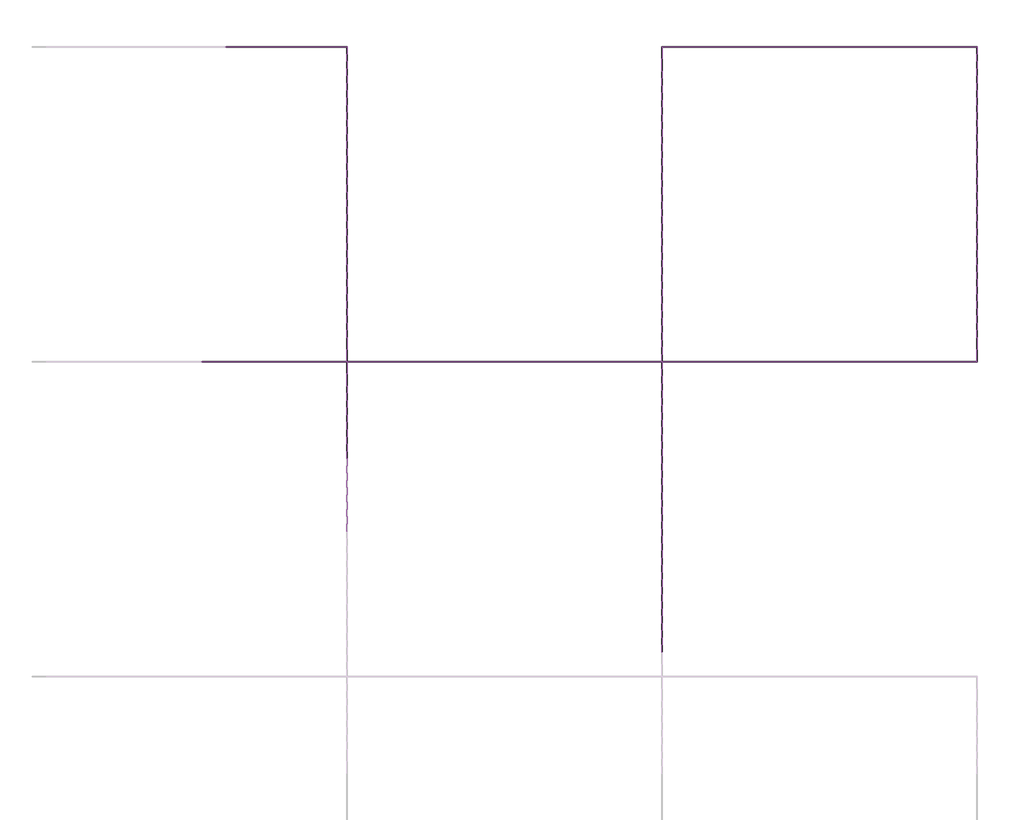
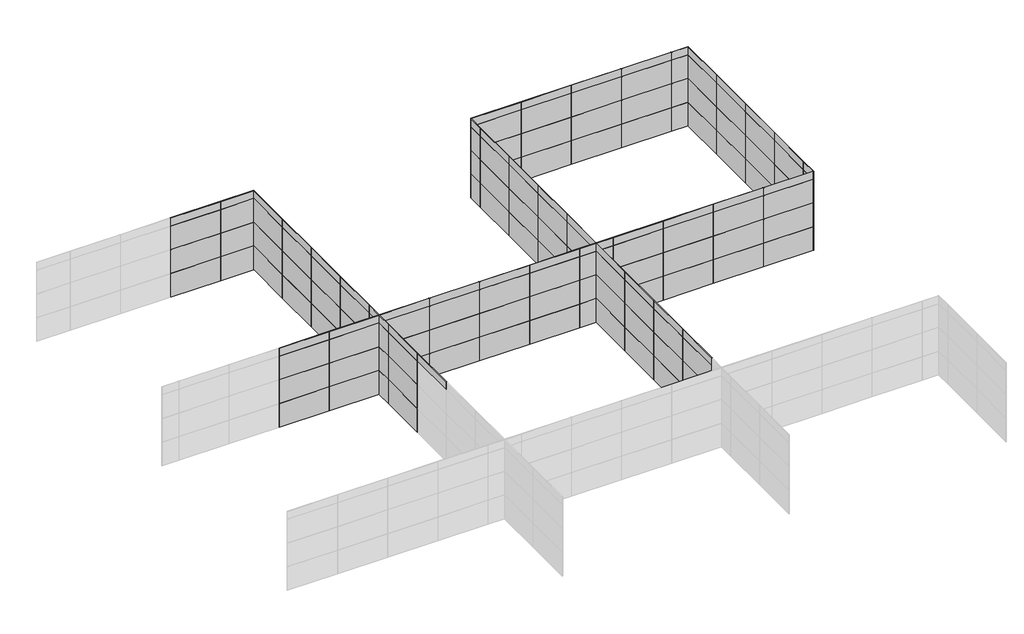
# One storey, part 4 of 4: 161 plates.
"""IFC4 building model written with IfcOpenShell, lengths in millimetres."""

from ifc_helpers import new_model, si_unit, origin, place, context, project, spatial, transform, mapped, element, save
from components import plate_b491c4e8, plate_da1865bf, plate_ce02e459, plate_7b5d22a9, plate_a38b8537, plate_752961ee

model = new_model("IFC4")

# Units and contexts
model_context = context("Model", 3, world=origin())
ifc_project = project(units=[si_unit("LENGTHUNIT", "METRE", prefix="MILLI")], contexts=[model_context])

# Site, building, storey
site = spatial("IfcSite", under=ifc_project)
building = spatial("IfcBuilding", under=site)
storey = spatial("IfcBuildingStorey", under=building, Name="标高 4", Elevation=15000.0)

# Plates
placement = place(None, origin())
plate_shape = plate_b491c4e8(model_context)
element("IfcPlate", 1, ObjectType="系统嵌板 : 玻璃", at=placement, inside=storey, context=model_context, shape_type="MappedRepresentation", body=[
    mapped(plate_shape, transform((30694.7947586, 23251.3686437, 15000.0), x_axis=(0.0, -1.0, 0.0), y_axis=(1.0, 0.0, 0.0), z_axis=(0.0, 0.0, 1.0))),
])
element("IfcPlate", 2, ObjectType="系统嵌板 : 玻璃", at=placement, inside=storey, context=model_context, shape_type="MappedRepresentation", body=[
    mapped(plate_shape, transform((30694.7947586, 20251.3686437, 15000.0), x_axis=(0.0, -1.0, 0.0), y_axis=(1.0, 0.0, 0.0), z_axis=(0.0, 0.0, 1.0))),
])
element("IfcPlate", 3, ObjectType="系统嵌板 : 玻璃", at=placement, inside=storey, context=model_context, shape_type="MappedRepresentation", body=[
    mapped(plate_shape, transform((30694.7947586, 17251.3686437, 15000.0), x_axis=(0.0, -1.0, 0.0), y_axis=(1.0, 0.0, 0.0), z_axis=(0.0, 0.0, 1.0))),
])
element("IfcPlate", 4, ObjectType="系统嵌板 : 玻璃", at=placement, inside=storey, context=model_context, shape_type="MappedRepresentation", body=[
    mapped(plate_shape, transform((30694.7947586, 14251.3686437, 15000.0), x_axis=(0.0, -1.0, 0.0), y_axis=(1.0, 0.0, 0.0), z_axis=(0.0, 0.0, 1.0))),
])
element("IfcPlate", 5, ObjectType="系统嵌板 : 玻璃", at=placement, inside=storey, context=model_context, shape_type="MappedRepresentation", body=[
    mapped(plate_shape, transform((30694.7947586, 23251.3686437, 16500.0), x_axis=(0.0, -1.0, 0.0), y_axis=(1.0, 0.0, 0.0), z_axis=(0.0, 0.0, 1.0))),
])
element("IfcPlate", 6, ObjectType="系统嵌板 : 玻璃", at=placement, inside=storey, context=model_context, shape_type="MappedRepresentation", body=[
    mapped(plate_shape, transform((30694.7947586, 20251.3686437, 16500.0), x_axis=(0.0, -1.0, 0.0), y_axis=(1.0, 0.0, 0.0), z_axis=(0.0, 0.0, 1.0))),
])
element("IfcPlate", 7, ObjectType="系统嵌板 : 玻璃", at=placement, inside=storey, context=model_context, shape_type="MappedRepresentation", body=[
    mapped(plate_shape, transform((30694.7947586, 17251.3686437, 16500.0), x_axis=(0.0, -1.0, 0.0), y_axis=(1.0, 0.0, 0.0), z_axis=(0.0, 0.0, 1.0))),
])
element("IfcPlate", 8, ObjectType="系统嵌板 : 玻璃", at=placement, inside=storey, context=model_context, shape_type="MappedRepresentation", body=[
    mapped(plate_shape, transform((30694.7947586, 14251.3686437, 16500.0), x_axis=(0.0, -1.0, 0.0), y_axis=(1.0, 0.0, 0.0), z_axis=(0.0, 0.0, 1.0))),
])
element("IfcPlate", 9, ObjectType="系统嵌板 : 玻璃", at=placement, inside=storey, context=model_context, shape_type="MappedRepresentation", body=[
    mapped(plate_shape, transform((30694.7947586, 23251.3686437, 18000.0), x_axis=(0.0, -1.0, 0.0), y_axis=(1.0, 0.0, 0.0), z_axis=(0.0, 0.0, 1.0))),
])
element("IfcPlate", 10, ObjectType="系统嵌板 : 玻璃", at=placement, inside=storey, context=model_context, shape_type="MappedRepresentation", body=[
    mapped(plate_shape, transform((30694.7947586, 20251.3686437, 18000.0), x_axis=(0.0, -1.0, 0.0), y_axis=(1.0, 0.0, 0.0), z_axis=(0.0, 0.0, 1.0))),
])
element("IfcPlate", 11, ObjectType="系统嵌板 : 玻璃", at=placement, inside=storey, context=model_context, shape_type="MappedRepresentation", body=[
    mapped(plate_shape, transform((30694.7947586, 17251.3686437, 18000.0), x_axis=(0.0, -1.0, 0.0), y_axis=(1.0, 0.0, 0.0), z_axis=(0.0, 0.0, 1.0))),
])
element("IfcPlate", 12, ObjectType="系统嵌板 : 玻璃", at=placement, inside=storey, context=model_context, shape_type="MappedRepresentation", body=[
    mapped(plate_shape, transform((30694.7947586, 14251.3686437, 18000.0), x_axis=(0.0, -1.0, 0.0), y_axis=(1.0, 0.0, 0.0), z_axis=(0.0, 0.0, 1.0))),
])
element("IfcPlate", 13, ObjectType="系统嵌板 : 玻璃", at=placement, inside=storey, context=model_context, shape_type="MappedRepresentation", body=[
    mapped(plate_shape, transform((1194.7947586, 24751.3686437, 15000.0), x_axis=(1.0, 0.0, 0.0), y_axis=(0.0, 1.0, 0.0), z_axis=(0.0, 0.0, 1.0))),
])
element("IfcPlate", 14, ObjectType="系统嵌板 : 玻璃", at=placement, inside=storey, context=model_context, shape_type="MappedRepresentation", body=[
    mapped(plate_shape, transform((19194.7947586, 24751.3686437, 15000.0), x_axis=(1.0, 0.0, 0.0), y_axis=(0.0, 1.0, 0.0), z_axis=(0.0, 0.0, 1.0))),
])
element("IfcPlate", 15, ObjectType="系统嵌板 : 玻璃", at=placement, inside=storey, context=model_context, shape_type="MappedRepresentation", body=[
    mapped(plate_shape, transform((22194.7947586, 24751.3686437, 15000.0), x_axis=(1.0, 0.0, 0.0), y_axis=(0.0, 1.0, 0.0), z_axis=(0.0, 0.0, 1.0))),
])
element("IfcPlate", 16, ObjectType="系统嵌板 : 玻璃", at=placement, inside=storey, context=model_context, shape_type="MappedRepresentation", body=[
    mapped(plate_shape, transform((25194.7947586, 24751.3686437, 15000.0), x_axis=(1.0, 0.0, 0.0), y_axis=(0.0, 1.0, 0.0), z_axis=(0.0, 0.0, 1.0))),
])
element("IfcPlate", 17, ObjectType="系统嵌板 : 玻璃", at=placement, inside=storey, context=model_context, shape_type="MappedRepresentation", body=[
    mapped(plate_shape, transform((28194.7947586, 24751.3686437, 15000.0), x_axis=(1.0, 0.0, 0.0), y_axis=(0.0, 1.0, 0.0), z_axis=(0.0, 0.0, 1.0))),
])
element("IfcPlate", 18, ObjectType="系统嵌板 : 玻璃", at=placement, inside=storey, context=model_context, shape_type="MappedRepresentation", body=[
    mapped(plate_shape, transform((1194.7947586, 24751.3686437, 16500.0), x_axis=(1.0, 0.0, 0.0), y_axis=(0.0, 1.0, 0.0), z_axis=(0.0, 0.0, 1.0))),
])
element("IfcPlate", 19, ObjectType="系统嵌板 : 玻璃", at=placement, inside=storey, context=model_context, shape_type="MappedRepresentation", body=[
    mapped(plate_shape, transform((19194.7947586, 24751.3686437, 16500.0), x_axis=(1.0, 0.0, 0.0), y_axis=(0.0, 1.0, 0.0), z_axis=(0.0, 0.0, 1.0))),
])
element("IfcPlate", 20, ObjectType="系统嵌板 : 玻璃", at=placement, inside=storey, context=model_context, shape_type="MappedRepresentation", body=[
    mapped(plate_shape, transform((22194.7947586, 24751.3686437, 16500.0), x_axis=(1.0, 0.0, 0.0), y_axis=(0.0, 1.0, 0.0), z_axis=(0.0, 0.0, 1.0))),
])
element("IfcPlate", 21, ObjectType="系统嵌板 : 玻璃", at=placement, inside=storey, context=model_context, shape_type="MappedRepresentation", body=[
    mapped(plate_shape, transform((25194.7947586, 24751.3686437, 16500.0), x_axis=(1.0, 0.0, 0.0), y_axis=(0.0, 1.0, 0.0), z_axis=(0.0, 0.0, 1.0))),
])
element("IfcPlate", 22, ObjectType="系统嵌板 : 玻璃", at=placement, inside=storey, context=model_context, shape_type="MappedRepresentation", body=[
    mapped(plate_shape, transform((28194.7947586, 24751.3686437, 16500.0), x_axis=(1.0, 0.0, 0.0), y_axis=(0.0, 1.0, 0.0), z_axis=(0.0, 0.0, 1.0))),
])
element("IfcPlate", 23, ObjectType="系统嵌板 : 玻璃", at=placement, inside=storey, context=model_context, shape_type="MappedRepresentation", body=[
    mapped(plate_shape, transform((1194.7947586, 24751.3686437, 18000.0), x_axis=(1.0, 0.0, 0.0), y_axis=(0.0, 1.0, 0.0), z_axis=(0.0, 0.0, 1.0))),
])
element("IfcPlate", 24, ObjectType="系统嵌板 : 玻璃", at=placement, inside=storey, context=model_context, shape_type="MappedRepresentation", body=[
    mapped(plate_shape, transform((19194.7947586, 24751.3686437, 18000.0), x_axis=(1.0, 0.0, 0.0), y_axis=(0.0, 1.0, 0.0), z_axis=(0.0, 0.0, 1.0))),
])
element("IfcPlate", 25, ObjectType="系统嵌板 : 玻璃", at=placement, inside=storey, context=model_context, shape_type="MappedRepresentation", body=[
    mapped(plate_shape, transform((22194.7947586, 24751.3686437, 18000.0), x_axis=(1.0, 0.0, 0.0), y_axis=(0.0, 1.0, 0.0), z_axis=(0.0, 0.0, 1.0))),
])
element("IfcPlate", 26, ObjectType="系统嵌板 : 玻璃", at=placement, inside=storey, context=model_context, shape_type="MappedRepresentation", body=[
    mapped(plate_shape, transform((25194.7947586, 24751.3686437, 18000.0), x_axis=(1.0, 0.0, 0.0), y_axis=(0.0, 1.0, 0.0), z_axis=(0.0, 0.0, 1.0))),
])
element("IfcPlate", 27, ObjectType="系统嵌板 : 玻璃", at=placement, inside=storey, context=model_context, shape_type="MappedRepresentation", body=[
    mapped(plate_shape, transform((28194.7947586, 24751.3686437, 18000.0), x_axis=(1.0, 0.0, 0.0), y_axis=(0.0, 1.0, 0.0), z_axis=(0.0, 0.0, 1.0))),
])
element("IfcPlate", 28, ObjectType="系统嵌板 : 玻璃", at=placement, inside=storey, context=model_context, shape_type="MappedRepresentation", body=[
    mapped(plate_shape, transform((4694.7947586, 9251.3686437, 15000.0), x_axis=(0.0, 1.0, 0.0), y_axis=(-1.0, 0.0, 0.0), z_axis=(0.0, 0.0, 1.0))),
])
element("IfcPlate", 29, ObjectType="系统嵌板 : 玻璃", at=placement, inside=storey, context=model_context, shape_type="MappedRepresentation", body=[
    mapped(plate_shape, transform((4694.7947586, 9251.3686437, 16500.0), x_axis=(0.0, 1.0, 0.0), y_axis=(-1.0, 0.0, 0.0), z_axis=(0.0, 0.0, 1.0))),
])
element("IfcPlate", 30, ObjectType="系统嵌板 : 玻璃", at=placement, inside=storey, context=model_context, shape_type="MappedRepresentation", body=[
    mapped(plate_shape, transform((4694.7947586, 9251.3686437, 18000.0), x_axis=(0.0, 1.0, 0.0), y_axis=(-1.0, 0.0, 0.0), z_axis=(0.0, 0.0, 1.0))),
])
element("IfcPlate", 31, ObjectType="系统嵌板 : 玻璃", at=placement, inside=storey, context=model_context, shape_type="MappedRepresentation", body=[
    mapped(plate_shape, transform((3194.7947586, 11751.3686437, 15000.0), x_axis=(-1.0, 0.0, 0.0), y_axis=(0.0, -1.0, 0.0), z_axis=(0.0, 0.0, 1.0))),
])
element("IfcPlate", 32, ObjectType="系统嵌板 : 玻璃", at=placement, inside=storey, context=model_context, shape_type="MappedRepresentation", body=[
    mapped(plate_shape, transform((194.7947586, 11751.3686437, 15000.0), x_axis=(-1.0, 0.0, 0.0), y_axis=(0.0, -1.0, 0.0), z_axis=(0.0, 0.0, 1.0))),
])
element("IfcPlate", 33, ObjectType="系统嵌板 : 玻璃", at=placement, inside=storey, context=model_context, shape_type="MappedRepresentation", body=[
    mapped(plate_shape, transform((3194.7947586, 11751.3686437, 16500.0), x_axis=(-1.0, 0.0, 0.0), y_axis=(0.0, -1.0, 0.0), z_axis=(0.0, 0.0, 1.0))),
])
element("IfcPlate", 34, ObjectType="系统嵌板 : 玻璃", at=placement, inside=storey, context=model_context, shape_type="MappedRepresentation", body=[
    mapped(plate_shape, transform((194.7947586, 11751.3686437, 16500.0), x_axis=(-1.0, 0.0, 0.0), y_axis=(0.0, -1.0, 0.0), z_axis=(0.0, 0.0, 1.0))),
])
element("IfcPlate", 35, ObjectType="系统嵌板 : 玻璃", at=placement, inside=storey, context=model_context, shape_type="MappedRepresentation", body=[
    mapped(plate_shape, transform((3194.7947586, 11751.3686437, 18000.0), x_axis=(-1.0, 0.0, 0.0), y_axis=(0.0, -1.0, 0.0), z_axis=(0.0, 0.0, 1.0))),
])
element("IfcPlate", 36, ObjectType="系统嵌板 : 玻璃", at=placement, inside=storey, context=model_context, shape_type="MappedRepresentation", body=[
    mapped(plate_shape, transform((194.7947586, 11751.3686437, 18000.0), x_axis=(-1.0, 0.0, 0.0), y_axis=(0.0, -1.0, 0.0), z_axis=(0.0, 0.0, 1.0))),
])
element("IfcPlate", 37, ObjectType="系统嵌板 : 玻璃", at=placement, inside=storey, context=model_context, shape_type="MappedRepresentation", body=[
    mapped(plate_shape, transform((17694.7947586, 13251.3686437, 15000.0), x_axis=(0.0, 1.0, 0.0), y_axis=(-1.0, 0.0, 0.0), z_axis=(0.0, 0.0, 1.0))),
])
element("IfcPlate", 38, ObjectType="系统嵌板 : 玻璃", at=placement, inside=storey, context=model_context, shape_type="MappedRepresentation", body=[
    mapped(plate_shape, transform((17694.7947586, 16251.3686437, 15000.0), x_axis=(0.0, 1.0, 0.0), y_axis=(-1.0, 0.0, 0.0), z_axis=(0.0, 0.0, 1.0))),
])
element("IfcPlate", 39, ObjectType="系统嵌板 : 玻璃", at=placement, inside=storey, context=model_context, shape_type="MappedRepresentation", body=[
    mapped(plate_shape, transform((17694.7947586, 19251.3686437, 15000.0), x_axis=(0.0, 1.0, 0.0), y_axis=(-1.0, 0.0, 0.0), z_axis=(0.0, 0.0, 1.0))),
])
element("IfcPlate", 40, ObjectType="系统嵌板 : 玻璃", at=placement, inside=storey, context=model_context, shape_type="MappedRepresentation", body=[
    mapped(plate_shape, transform((17694.7947586, 22251.3686437, 15000.0), x_axis=(0.0, 1.0, 0.0), y_axis=(-1.0, 0.0, 0.0), z_axis=(0.0, 0.0, 1.0))),
])
element("IfcPlate", 41, ObjectType="系统嵌板 : 玻璃", at=placement, inside=storey, context=model_context, shape_type="MappedRepresentation", body=[
    mapped(plate_shape, transform((17694.7947586, 13251.3686437, 16500.0), x_axis=(0.0, 1.0, 0.0), y_axis=(-1.0, 0.0, 0.0), z_axis=(0.0, 0.0, 1.0))),
])
element("IfcPlate", 42, ObjectType="系统嵌板 : 玻璃", at=placement, inside=storey, context=model_context, shape_type="MappedRepresentation", body=[
    mapped(plate_shape, transform((17694.7947586, 16251.3686437, 16500.0), x_axis=(0.0, 1.0, 0.0), y_axis=(-1.0, 0.0, 0.0), z_axis=(0.0, 0.0, 1.0))),
])
element("IfcPlate", 43, ObjectType="系统嵌板 : 玻璃", at=placement, inside=storey, context=model_context, shape_type="MappedRepresentation", body=[
    mapped(plate_shape, transform((17694.7947586, 19251.3686437, 16500.0), x_axis=(0.0, 1.0, 0.0), y_axis=(-1.0, 0.0, 0.0), z_axis=(0.0, 0.0, 1.0))),
])
element("IfcPlate", 44, ObjectType="系统嵌板 : 玻璃", at=placement, inside=storey, context=model_context, shape_type="MappedRepresentation", body=[
    mapped(plate_shape, transform((17694.7947586, 22251.3686437, 16500.0), x_axis=(0.0, 1.0, 0.0), y_axis=(-1.0, 0.0, 0.0), z_axis=(0.0, 0.0, 1.0))),
])
element("IfcPlate", 45, ObjectType="系统嵌板 : 玻璃", at=placement, inside=storey, context=model_context, shape_type="MappedRepresentation", body=[
    mapped(plate_shape, transform((17694.7947586, 13251.3686437, 18000.0), x_axis=(0.0, 1.0, 0.0), y_axis=(-1.0, 0.0, 0.0), z_axis=(0.0, 0.0, 1.0))),
])
element("IfcPlate", 46, ObjectType="系统嵌板 : 玻璃", at=placement, inside=storey, context=model_context, shape_type="MappedRepresentation", body=[
    mapped(plate_shape, transform((17694.7947586, 16251.3686437, 18000.0), x_axis=(0.0, 1.0, 0.0), y_axis=(-1.0, 0.0, 0.0), z_axis=(0.0, 0.0, 1.0))),
])
element("IfcPlate", 47, ObjectType="系统嵌板 : 玻璃", at=placement, inside=storey, context=model_context, shape_type="MappedRepresentation", body=[
    mapped(plate_shape, transform((17694.7947586, 19251.3686437, 18000.0), x_axis=(0.0, 1.0, 0.0), y_axis=(-1.0, 0.0, 0.0), z_axis=(0.0, 0.0, 1.0))),
])
element("IfcPlate", 48, ObjectType="系统嵌板 : 玻璃", at=placement, inside=storey, context=model_context, shape_type="MappedRepresentation", body=[
    mapped(plate_shape, transform((17694.7947586, 22251.3686437, 18000.0), x_axis=(0.0, 1.0, 0.0), y_axis=(-1.0, 0.0, 0.0), z_axis=(0.0, 0.0, 1.0))),
])
element("IfcPlate", 49, ObjectType="系统嵌板 : 玻璃", at=placement, inside=storey, context=model_context, shape_type="MappedRepresentation", body=[
    mapped(plate_shape, transform((6194.7947586, 11751.3686437, 15000.0), x_axis=(1.0, 0.0, 0.0), y_axis=(0.0, 1.0, 0.0), z_axis=(0.0, 0.0, 1.0))),
])
element("IfcPlate", 50, ObjectType="系统嵌板 : 玻璃", at=placement, inside=storey, context=model_context, shape_type="MappedRepresentation", body=[
    mapped(plate_shape, transform((9194.7947586, 11751.3686437, 15000.0), x_axis=(1.0, 0.0, 0.0), y_axis=(0.0, 1.0, 0.0), z_axis=(0.0, 0.0, 1.0))),
])
element("IfcPlate", 51, ObjectType="系统嵌板 : 玻璃", at=placement, inside=storey, context=model_context, shape_type="MappedRepresentation", body=[
    mapped(plate_shape, transform((12194.7947586, 11751.3686437, 15000.0), x_axis=(1.0, 0.0, 0.0), y_axis=(0.0, 1.0, 0.0), z_axis=(0.0, 0.0, 1.0))),
])
element("IfcPlate", 52, ObjectType="系统嵌板 : 玻璃", at=placement, inside=storey, context=model_context, shape_type="MappedRepresentation", body=[
    mapped(plate_shape, transform((15194.7947586, 11751.3686437, 15000.0), x_axis=(1.0, 0.0, 0.0), y_axis=(0.0, 1.0, 0.0), z_axis=(0.0, 0.0, 1.0))),
])
element("IfcPlate", 53, ObjectType="系统嵌板 : 玻璃", at=placement, inside=storey, context=model_context, shape_type="MappedRepresentation", body=[
    mapped(plate_shape, transform((6194.7947586, 11751.3686437, 16500.0), x_axis=(1.0, 0.0, 0.0), y_axis=(0.0, 1.0, 0.0), z_axis=(0.0, 0.0, 1.0))),
])
element("IfcPlate", 54, ObjectType="系统嵌板 : 玻璃", at=placement, inside=storey, context=model_context, shape_type="MappedRepresentation", body=[
    mapped(plate_shape, transform((9194.7947586, 11751.3686437, 16500.0), x_axis=(1.0, 0.0, 0.0), y_axis=(0.0, 1.0, 0.0), z_axis=(0.0, 0.0, 1.0))),
])
element("IfcPlate", 55, ObjectType="系统嵌板 : 玻璃", at=placement, inside=storey, context=model_context, shape_type="MappedRepresentation", body=[
    mapped(plate_shape, transform((12194.7947586, 11751.3686437, 16500.0), x_axis=(1.0, 0.0, 0.0), y_axis=(0.0, 1.0, 0.0), z_axis=(0.0, 0.0, 1.0))),
])
element("IfcPlate", 56, ObjectType="系统嵌板 : 玻璃", at=placement, inside=storey, context=model_context, shape_type="MappedRepresentation", body=[
    mapped(plate_shape, transform((15194.7947586, 11751.3686437, 16500.0), x_axis=(1.0, 0.0, 0.0), y_axis=(0.0, 1.0, 0.0), z_axis=(0.0, 0.0, 1.0))),
])
element("IfcPlate", 57, ObjectType="系统嵌板 : 玻璃", at=placement, inside=storey, context=model_context, shape_type="MappedRepresentation", body=[
    mapped(plate_shape, transform((6194.7947586, 11751.3686437, 18000.0), x_axis=(1.0, 0.0, 0.0), y_axis=(0.0, 1.0, 0.0), z_axis=(0.0, 0.0, 1.0))),
])
element("IfcPlate", 58, ObjectType="系统嵌板 : 玻璃", at=placement, inside=storey, context=model_context, shape_type="MappedRepresentation", body=[
    mapped(plate_shape, transform((9194.7947586, 11751.3686437, 18000.0), x_axis=(1.0, 0.0, 0.0), y_axis=(0.0, 1.0, 0.0), z_axis=(0.0, 0.0, 1.0))),
])
element("IfcPlate", 59, ObjectType="系统嵌板 : 玻璃", at=placement, inside=storey, context=model_context, shape_type="MappedRepresentation", body=[
    mapped(plate_shape, transform((12194.7947586, 11751.3686437, 18000.0), x_axis=(1.0, 0.0, 0.0), y_axis=(0.0, 1.0, 0.0), z_axis=(0.0, 0.0, 1.0))),
])
element("IfcPlate", 60, ObjectType="系统嵌板 : 玻璃", at=placement, inside=storey, context=model_context, shape_type="MappedRepresentation", body=[
    mapped(plate_shape, transform((15194.7947586, 11751.3686437, 18000.0), x_axis=(1.0, 0.0, 0.0), y_axis=(0.0, 1.0, 0.0), z_axis=(0.0, 0.0, 1.0))),
])
element("IfcPlate", 61, ObjectType="系统嵌板 : 玻璃", at=placement, inside=storey, context=model_context, shape_type="MappedRepresentation", body=[
    mapped(plate_shape, transform((4694.7947586, 23251.3686437, 15000.0), x_axis=(0.0, -1.0, 0.0), y_axis=(1.0, 0.0, 0.0), z_axis=(0.0, 0.0, 1.0))),
])
element("IfcPlate", 62, ObjectType="系统嵌板 : 玻璃", at=placement, inside=storey, context=model_context, shape_type="MappedRepresentation", body=[
    mapped(plate_shape, transform((4694.7947586, 20251.3686437, 15000.0), x_axis=(0.0, -1.0, 0.0), y_axis=(1.0, 0.0, 0.0), z_axis=(0.0, 0.0, 1.0))),
])
element("IfcPlate", 63, ObjectType="系统嵌板 : 玻璃", at=placement, inside=storey, context=model_context, shape_type="MappedRepresentation", body=[
    mapped(plate_shape, transform((4694.7947586, 17251.3686437, 15000.0), x_axis=(0.0, -1.0, 0.0), y_axis=(1.0, 0.0, 0.0), z_axis=(0.0, 0.0, 1.0))),
])
element("IfcPlate", 64, ObjectType="系统嵌板 : 玻璃", at=placement, inside=storey, context=model_context, shape_type="MappedRepresentation", body=[
    mapped(plate_shape, transform((4694.7947586, 14251.3686437, 15000.0), x_axis=(0.0, -1.0, 0.0), y_axis=(1.0, 0.0, 0.0), z_axis=(0.0, 0.0, 1.0))),
])
element("IfcPlate", 65, ObjectType="系统嵌板 : 玻璃", at=placement, inside=storey, context=model_context, shape_type="MappedRepresentation", body=[
    mapped(plate_shape, transform((4694.7947586, 23251.3686437, 16500.0), x_axis=(0.0, -1.0, 0.0), y_axis=(1.0, 0.0, 0.0), z_axis=(0.0, 0.0, 1.0))),
])
element("IfcPlate", 66, ObjectType="系统嵌板 : 玻璃", at=placement, inside=storey, context=model_context, shape_type="MappedRepresentation", body=[
    mapped(plate_shape, transform((4694.7947586, 20251.3686437, 16500.0), x_axis=(0.0, -1.0, 0.0), y_axis=(1.0, 0.0, 0.0), z_axis=(0.0, 0.0, 1.0))),
])
element("IfcPlate", 67, ObjectType="系统嵌板 : 玻璃", at=placement, inside=storey, context=model_context, shape_type="MappedRepresentation", body=[
    mapped(plate_shape, transform((4694.7947586, 17251.3686437, 16500.0), x_axis=(0.0, -1.0, 0.0), y_axis=(1.0, 0.0, 0.0), z_axis=(0.0, 0.0, 1.0))),
])
element("IfcPlate", 68, ObjectType="系统嵌板 : 玻璃", at=placement, inside=storey, context=model_context, shape_type="MappedRepresentation", body=[
    mapped(plate_shape, transform((4694.7947586, 14251.3686437, 16500.0), x_axis=(0.0, -1.0, 0.0), y_axis=(1.0, 0.0, 0.0), z_axis=(0.0, 0.0, 1.0))),
])
element("IfcPlate", 69, ObjectType="系统嵌板 : 玻璃", at=placement, inside=storey, context=model_context, shape_type="MappedRepresentation", body=[
    mapped(plate_shape, transform((4694.7947586, 23251.3686437, 18000.0), x_axis=(0.0, -1.0, 0.0), y_axis=(1.0, 0.0, 0.0), z_axis=(0.0, 0.0, 1.0))),
])
element("IfcPlate", 70, ObjectType="系统嵌板 : 玻璃", at=placement, inside=storey, context=model_context, shape_type="MappedRepresentation", body=[
    mapped(plate_shape, transform((4694.7947586, 20251.3686437, 18000.0), x_axis=(0.0, -1.0, 0.0), y_axis=(1.0, 0.0, 0.0), z_axis=(0.0, 0.0, 1.0))),
])
element("IfcPlate", 71, ObjectType="系统嵌板 : 玻璃", at=placement, inside=storey, context=model_context, shape_type="MappedRepresentation", body=[
    mapped(plate_shape, transform((4694.7947586, 17251.3686437, 18000.0), x_axis=(0.0, -1.0, 0.0), y_axis=(1.0, 0.0, 0.0), z_axis=(0.0, 0.0, 1.0))),
])
element("IfcPlate", 72, ObjectType="系统嵌板 : 玻璃", at=placement, inside=storey, context=model_context, shape_type="MappedRepresentation", body=[
    mapped(plate_shape, transform((4694.7947586, 14251.3686437, 18000.0), x_axis=(0.0, -1.0, 0.0), y_axis=(1.0, 0.0, 0.0), z_axis=(0.0, 0.0, 1.0))),
])
element("IfcPlate", 73, ObjectType="系统嵌板 : 玻璃", at=placement, inside=storey, context=model_context, shape_type="MappedRepresentation", body=[
    mapped(plate_shape, transform((29194.7947586, 11751.3686437, 15000.0), x_axis=(-1.0, 0.0, 0.0), y_axis=(0.0, -1.0, 0.0), z_axis=(0.0, 0.0, 1.0))),
])
element("IfcPlate", 74, ObjectType="系统嵌板 : 玻璃", at=placement, inside=storey, context=model_context, shape_type="MappedRepresentation", body=[
    mapped(plate_shape, transform((26194.7947586, 11751.3686437, 15000.0), x_axis=(-1.0, 0.0, 0.0), y_axis=(0.0, -1.0, 0.0), z_axis=(0.0, 0.0, 1.0))),
])
element("IfcPlate", 75, ObjectType="系统嵌板 : 玻璃", at=placement, inside=storey, context=model_context, shape_type="MappedRepresentation", body=[
    mapped(plate_shape, transform((23194.7947586, 11751.3686437, 15000.0), x_axis=(-1.0, 0.0, 0.0), y_axis=(0.0, -1.0, 0.0), z_axis=(0.0, 0.0, 1.0))),
])
element("IfcPlate", 76, ObjectType="系统嵌板 : 玻璃", at=placement, inside=storey, context=model_context, shape_type="MappedRepresentation", body=[
    mapped(plate_shape, transform((20194.7947586, 11751.3686437, 15000.0), x_axis=(-1.0, 0.0, 0.0), y_axis=(0.0, -1.0, 0.0), z_axis=(0.0, 0.0, 1.0))),
])
element("IfcPlate", 77, ObjectType="系统嵌板 : 玻璃", at=placement, inside=storey, context=model_context, shape_type="MappedRepresentation", body=[
    mapped(plate_shape, transform((29194.7947586, 11751.3686437, 16500.0), x_axis=(-1.0, 0.0, 0.0), y_axis=(0.0, -1.0, 0.0), z_axis=(0.0, 0.0, 1.0))),
])
element("IfcPlate", 78, ObjectType="系统嵌板 : 玻璃", at=placement, inside=storey, context=model_context, shape_type="MappedRepresentation", body=[
    mapped(plate_shape, transform((26194.7947586, 11751.3686437, 16500.0), x_axis=(-1.0, 0.0, 0.0), y_axis=(0.0, -1.0, 0.0), z_axis=(0.0, 0.0, 1.0))),
])
element("IfcPlate", 79, ObjectType="系统嵌板 : 玻璃", at=placement, inside=storey, context=model_context, shape_type="MappedRepresentation", body=[
    mapped(plate_shape, transform((23194.7947586, 11751.3686437, 16500.0), x_axis=(-1.0, 0.0, 0.0), y_axis=(0.0, -1.0, 0.0), z_axis=(0.0, 0.0, 1.0))),
])
element("IfcPlate", 80, ObjectType="系统嵌板 : 玻璃", at=placement, inside=storey, context=model_context, shape_type="MappedRepresentation", body=[
    mapped(plate_shape, transform((20194.7947586, 11751.3686437, 16500.0), x_axis=(-1.0, 0.0, 0.0), y_axis=(0.0, -1.0, 0.0), z_axis=(0.0, 0.0, 1.0))),
])
element("IfcPlate", 81, ObjectType="系统嵌板 : 玻璃", at=placement, inside=storey, context=model_context, shape_type="MappedRepresentation", body=[
    mapped(plate_shape, transform((29194.7947586, 11751.3686437, 18000.0), x_axis=(-1.0, 0.0, 0.0), y_axis=(0.0, -1.0, 0.0), z_axis=(0.0, 0.0, 1.0))),
])
element("IfcPlate", 82, ObjectType="系统嵌板 : 玻璃", at=placement, inside=storey, context=model_context, shape_type="MappedRepresentation", body=[
    mapped(plate_shape, transform((26194.7947586, 11751.3686437, 18000.0), x_axis=(-1.0, 0.0, 0.0), y_axis=(0.0, -1.0, 0.0), z_axis=(0.0, 0.0, 1.0))),
])
element("IfcPlate", 83, ObjectType="系统嵌板 : 玻璃", at=placement, inside=storey, context=model_context, shape_type="MappedRepresentation", body=[
    mapped(plate_shape, transform((23194.7947586, 11751.3686437, 18000.0), x_axis=(-1.0, 0.0, 0.0), y_axis=(0.0, -1.0, 0.0), z_axis=(0.0, 0.0, 1.0))),
])
element("IfcPlate", 84, ObjectType="系统嵌板 : 玻璃", at=placement, inside=storey, context=model_context, shape_type="MappedRepresentation", body=[
    mapped(plate_shape, transform((20194.7947586, 11751.3686437, 18000.0), x_axis=(-1.0, 0.0, 0.0), y_axis=(0.0, -1.0, 0.0), z_axis=(0.0, 0.0, 1.0))),
])
element("IfcPlate", 85, ObjectType="系统嵌板 : 玻璃", at=placement, inside=storey, context=model_context, shape_type="MappedRepresentation", body=[
    mapped(plate_shape, transform((17694.7947586, 10251.3686437, 15000.0), x_axis=(0.0, -1.0, 0.0), y_axis=(1.0, 0.0, 0.0), z_axis=(0.0, 0.0, 1.0))),
])
element("IfcPlate", 86, ObjectType="系统嵌板 : 玻璃", at=placement, inside=storey, context=model_context, shape_type="MappedRepresentation", body=[
    mapped(plate_shape, transform((17694.7947586, 7251.3686437, 15000.0), x_axis=(0.0, -1.0, 0.0), y_axis=(1.0, 0.0, 0.0), z_axis=(0.0, 0.0, 1.0))),
])
element("IfcPlate", 87, ObjectType="系统嵌板 : 玻璃", at=placement, inside=storey, context=model_context, shape_type="MappedRepresentation", body=[
    mapped(plate_shape, transform((17694.7947586, 4251.3686437, 15000.0), x_axis=(0.0, -1.0, 0.0), y_axis=(1.0, 0.0, 0.0), z_axis=(0.0, 0.0, 1.0))),
])
element("IfcPlate", 88, ObjectType="系统嵌板 : 玻璃", at=placement, inside=storey, context=model_context, shape_type="MappedRepresentation", body=[
    mapped(plate_shape, transform((17694.7947586, 1251.3686437, 15000.0), x_axis=(0.0, -1.0, 0.0), y_axis=(1.0, 0.0, 0.0), z_axis=(0.0, 0.0, 1.0))),
])
element("IfcPlate", 89, ObjectType="系统嵌板 : 玻璃", at=placement, inside=storey, context=model_context, shape_type="MappedRepresentation", body=[
    mapped(plate_shape, transform((17694.7947586, 10251.3686437, 16500.0), x_axis=(0.0, -1.0, 0.0), y_axis=(1.0, 0.0, 0.0), z_axis=(0.0, 0.0, 1.0))),
])
element("IfcPlate", 90, ObjectType="系统嵌板 : 玻璃", at=placement, inside=storey, context=model_context, shape_type="MappedRepresentation", body=[
    mapped(plate_shape, transform((17694.7947586, 7251.3686437, 16500.0), x_axis=(0.0, -1.0, 0.0), y_axis=(1.0, 0.0, 0.0), z_axis=(0.0, 0.0, 1.0))),
])
element("IfcPlate", 91, ObjectType="系统嵌板 : 玻璃", at=placement, inside=storey, context=model_context, shape_type="MappedRepresentation", body=[
    mapped(plate_shape, transform((17694.7947586, 4251.3686437, 16500.0), x_axis=(0.0, -1.0, 0.0), y_axis=(1.0, 0.0, 0.0), z_axis=(0.0, 0.0, 1.0))),
])
element("IfcPlate", 92, ObjectType="系统嵌板 : 玻璃", at=placement, inside=storey, context=model_context, shape_type="MappedRepresentation", body=[
    mapped(plate_shape, transform((17694.7947586, 1251.3686437, 16500.0), x_axis=(0.0, -1.0, 0.0), y_axis=(1.0, 0.0, 0.0), z_axis=(0.0, 0.0, 1.0))),
])
element("IfcPlate", 93, ObjectType="系统嵌板 : 玻璃", at=placement, inside=storey, context=model_context, shape_type="MappedRepresentation", body=[
    mapped(plate_shape, transform((17694.7947586, 10251.3686437, 18000.0), x_axis=(0.0, -1.0, 0.0), y_axis=(1.0, 0.0, 0.0), z_axis=(0.0, 0.0, 1.0))),
])
element("IfcPlate", 94, ObjectType="系统嵌板 : 玻璃", at=placement, inside=storey, context=model_context, shape_type="MappedRepresentation", body=[
    mapped(plate_shape, transform((17694.7947586, 7251.3686437, 18000.0), x_axis=(0.0, -1.0, 0.0), y_axis=(1.0, 0.0, 0.0), z_axis=(0.0, 0.0, 1.0))),
])
element("IfcPlate", 95, ObjectType="系统嵌板 : 玻璃", at=placement, inside=storey, context=model_context, shape_type="MappedRepresentation", body=[
    mapped(plate_shape, transform((17694.7947586, 4251.3686437, 18000.0), x_axis=(0.0, -1.0, 0.0), y_axis=(1.0, 0.0, 0.0), z_axis=(0.0, 0.0, 1.0))),
])
element("IfcPlate", 96, ObjectType="系统嵌板 : 玻璃", at=placement, inside=storey, context=model_context, shape_type="MappedRepresentation", body=[
    mapped(plate_shape, transform((17694.7947586, 1251.3686437, 18000.0), x_axis=(0.0, -1.0, 0.0), y_axis=(1.0, 0.0, 0.0), z_axis=(0.0, 0.0, 1.0))),
])
plate_2_shape = plate_da1865bf(model_context)
element("IfcPlate", 97, ObjectType="系统嵌板 : 玻璃", at=placement, inside=storey, context=model_context, shape_type="MappedRepresentation", body=[
    mapped(plate_2_shape, transform((30694.7947586, 12251.3686437, 15000.0), x_axis=(0.0, -1.0, 0.0), y_axis=(1.0, 0.0, 0.0), z_axis=(0.0, 0.0, 1.0))),
])
element("IfcPlate", 98, ObjectType="系统嵌板 : 玻璃", at=placement, inside=storey, context=model_context, shape_type="MappedRepresentation", body=[
    mapped(plate_2_shape, transform((30694.7947586, 12251.3686437, 16500.0), x_axis=(0.0, -1.0, 0.0), y_axis=(1.0, 0.0, 0.0), z_axis=(0.0, 0.0, 1.0))),
])
element("IfcPlate", 99, ObjectType="系统嵌板 : 玻璃", at=placement, inside=storey, context=model_context, shape_type="MappedRepresentation", body=[
    mapped(plate_2_shape, transform((30694.7947586, 12251.3686437, 18000.0), x_axis=(0.0, -1.0, 0.0), y_axis=(1.0, 0.0, 0.0), z_axis=(0.0, 0.0, 1.0))),
])
element("IfcPlate", 100, ObjectType="系统嵌板 : 玻璃", at=placement, inside=storey, context=model_context, shape_type="MappedRepresentation", body=[
    mapped(plate_2_shape, transform((30194.7947586, 24751.3686437, 15000.0), x_axis=(1.0, 0.0, 0.0), y_axis=(0.0, 1.0, 0.0), z_axis=(0.0, 0.0, 1.0))),
])
element("IfcPlate", 101, ObjectType="系统嵌板 : 玻璃", at=placement, inside=storey, context=model_context, shape_type="MappedRepresentation", body=[
    mapped(plate_2_shape, transform((30194.7947586, 24751.3686437, 16500.0), x_axis=(1.0, 0.0, 0.0), y_axis=(0.0, 1.0, 0.0), z_axis=(0.0, 0.0, 1.0))),
])
element("IfcPlate", 102, ObjectType="系统嵌板 : 玻璃", at=placement, inside=storey, context=model_context, shape_type="MappedRepresentation", body=[
    mapped(plate_2_shape, transform((30194.7947586, 24751.3686437, 18000.0), x_axis=(1.0, 0.0, 0.0), y_axis=(0.0, 1.0, 0.0), z_axis=(0.0, 0.0, 1.0))),
])
element("IfcPlate", 103, ObjectType="系统嵌板 : 玻璃", at=placement, inside=storey, context=model_context, shape_type="MappedRepresentation", body=[
    mapped(plate_2_shape, transform((4694.7947586, 11251.3686437, 15000.0), x_axis=(0.0, 1.0, 0.0), y_axis=(-1.0, 0.0, 0.0), z_axis=(0.0, 0.0, 1.0))),
])
element("IfcPlate", 104, ObjectType="系统嵌板 : 玻璃", at=placement, inside=storey, context=model_context, shape_type="MappedRepresentation", body=[
    mapped(plate_2_shape, transform((4694.7947586, 11251.3686437, 16500.0), x_axis=(0.0, 1.0, 0.0), y_axis=(-1.0, 0.0, 0.0), z_axis=(0.0, 0.0, 1.0))),
])
element("IfcPlate", 105, ObjectType="系统嵌板 : 玻璃", at=placement, inside=storey, context=model_context, shape_type="MappedRepresentation", body=[
    mapped(plate_2_shape, transform((4694.7947586, 11251.3686437, 18000.0), x_axis=(0.0, 1.0, 0.0), y_axis=(-1.0, 0.0, 0.0), z_axis=(0.0, 0.0, 1.0))),
])
element("IfcPlate", 106, ObjectType="系统嵌板 : 玻璃", at=placement, inside=storey, context=model_context, shape_type="MappedRepresentation", body=[
    mapped(plate_2_shape, transform((17694.7947586, 24251.3686437, 15000.0), x_axis=(0.0, 1.0, 0.0), y_axis=(-1.0, 0.0, 0.0), z_axis=(0.0, 0.0, 1.0))),
])
element("IfcPlate", 107, ObjectType="系统嵌板 : 玻璃", at=placement, inside=storey, context=model_context, shape_type="MappedRepresentation", body=[
    mapped(plate_2_shape, transform((17694.7947586, 24251.3686437, 16500.0), x_axis=(0.0, 1.0, 0.0), y_axis=(-1.0, 0.0, 0.0), z_axis=(0.0, 0.0, 1.0))),
])
element("IfcPlate", 108, ObjectType="系统嵌板 : 玻璃", at=placement, inside=storey, context=model_context, shape_type="MappedRepresentation", body=[
    mapped(plate_2_shape, transform((17694.7947586, 24251.3686437, 18000.0), x_axis=(0.0, 1.0, 0.0), y_axis=(-1.0, 0.0, 0.0), z_axis=(0.0, 0.0, 1.0))),
])
element("IfcPlate", 109, ObjectType="系统嵌板 : 玻璃", at=placement, inside=storey, context=model_context, shape_type="MappedRepresentation", body=[
    mapped(plate_2_shape, transform((17194.7947586, 11751.3686437, 15000.0), x_axis=(1.0, 0.0, 0.0), y_axis=(0.0, 1.0, 0.0), z_axis=(0.0, 0.0, 1.0))),
])
element("IfcPlate", 110, ObjectType="系统嵌板 : 玻璃", at=placement, inside=storey, context=model_context, shape_type="MappedRepresentation", body=[
    mapped(plate_2_shape, transform((17194.7947586, 11751.3686437, 16500.0), x_axis=(1.0, 0.0, 0.0), y_axis=(0.0, 1.0, 0.0), z_axis=(0.0, 0.0, 1.0))),
])
element("IfcPlate", 111, ObjectType="系统嵌板 : 玻璃", at=placement, inside=storey, context=model_context, shape_type="MappedRepresentation", body=[
    mapped(plate_2_shape, transform((17194.7947586, 11751.3686437, 18000.0), x_axis=(1.0, 0.0, 0.0), y_axis=(0.0, 1.0, 0.0), z_axis=(0.0, 0.0, 1.0))),
])
element("IfcPlate", 112, ObjectType="系统嵌板 : 玻璃", at=placement, inside=storey, context=model_context, shape_type="MappedRepresentation", body=[
    mapped(plate_2_shape, transform((4694.7947586, 12251.3686437, 15000.0), x_axis=(0.0, -1.0, 0.0), y_axis=(1.0, 0.0, 0.0), z_axis=(0.0, 0.0, 1.0))),
])
element("IfcPlate", 113, ObjectType="系统嵌板 : 玻璃", at=placement, inside=storey, context=model_context, shape_type="MappedRepresentation", body=[
    mapped(plate_2_shape, transform((4694.7947586, 12251.3686437, 16500.0), x_axis=(0.0, -1.0, 0.0), y_axis=(1.0, 0.0, 0.0), z_axis=(0.0, 0.0, 1.0))),
])
element("IfcPlate", 114, ObjectType="系统嵌板 : 玻璃", at=placement, inside=storey, context=model_context, shape_type="MappedRepresentation", body=[
    mapped(plate_2_shape, transform((4694.7947586, 12251.3686437, 18000.0), x_axis=(0.0, -1.0, 0.0), y_axis=(1.0, 0.0, 0.0), z_axis=(0.0, 0.0, 1.0))),
])
element("IfcPlate", 115, ObjectType="系统嵌板 : 玻璃", at=placement, inside=storey, context=model_context, shape_type="MappedRepresentation", body=[
    mapped(plate_2_shape, transform((18194.7947586, 11751.3686437, 15000.0), x_axis=(-1.0, 0.0, 0.0), y_axis=(0.0, -1.0, 0.0), z_axis=(0.0, 0.0, 1.0))),
])
element("IfcPlate", 116, ObjectType="系统嵌板 : 玻璃", at=placement, inside=storey, context=model_context, shape_type="MappedRepresentation", body=[
    mapped(plate_2_shape, transform((18194.7947586, 11751.3686437, 16500.0), x_axis=(-1.0, 0.0, 0.0), y_axis=(0.0, -1.0, 0.0), z_axis=(0.0, 0.0, 1.0))),
])
element("IfcPlate", 117, ObjectType="系统嵌板 : 玻璃", at=placement, inside=storey, context=model_context, shape_type="MappedRepresentation", body=[
    mapped(plate_2_shape, transform((18194.7947586, 11751.3686437, 18000.0), x_axis=(-1.0, 0.0, 0.0), y_axis=(0.0, -1.0, 0.0), z_axis=(0.0, 0.0, 1.0))),
])
plate_3_shape = plate_ce02e459(model_context)
element("IfcPlate", 118, ObjectType="系统嵌板 : 玻璃", at=placement, inside=storey, context=model_context, shape_type="MappedRepresentation", body=[
    mapped(plate_3_shape, transform((30694.7947586, 23251.3686437, 19500.0), x_axis=(0.0, -1.0, 0.0), y_axis=(1.0, 0.0, 0.0), z_axis=(0.0, 0.0, 1.0))),
])
element("IfcPlate", 119, ObjectType="系统嵌板 : 玻璃", at=placement, inside=storey, context=model_context, shape_type="MappedRepresentation", body=[
    mapped(plate_3_shape, transform((30694.7947586, 20251.3686437, 19500.0), x_axis=(0.0, -1.0, 0.0), y_axis=(1.0, 0.0, 0.0), z_axis=(0.0, 0.0, 1.0))),
])
element("IfcPlate", 120, ObjectType="系统嵌板 : 玻璃", at=placement, inside=storey, context=model_context, shape_type="MappedRepresentation", body=[
    mapped(plate_3_shape, transform((30694.7947586, 17251.3686437, 19500.0), x_axis=(0.0, -1.0, 0.0), y_axis=(1.0, 0.0, 0.0), z_axis=(0.0, 0.0, 1.0))),
])
element("IfcPlate", 121, ObjectType="系统嵌板 : 玻璃", at=placement, inside=storey, context=model_context, shape_type="MappedRepresentation", body=[
    mapped(plate_3_shape, transform((30694.7947586, 14251.3686437, 19500.0), x_axis=(0.0, -1.0, 0.0), y_axis=(1.0, 0.0, 0.0), z_axis=(0.0, 0.0, 1.0))),
])
element("IfcPlate", 122, ObjectType="系统嵌板 : 玻璃", at=placement, inside=storey, context=model_context, shape_type="MappedRepresentation", body=[
    mapped(plate_3_shape, transform((1194.7947586, 24751.3686437, 19500.0), x_axis=(1.0, 0.0, 0.0), y_axis=(0.0, 1.0, 0.0), z_axis=(0.0, 0.0, 1.0))),
])
element("IfcPlate", 123, ObjectType="系统嵌板 : 玻璃", at=placement, inside=storey, context=model_context, shape_type="MappedRepresentation", body=[
    mapped(plate_3_shape, transform((19194.7947586, 24751.3686437, 19500.0), x_axis=(1.0, 0.0, 0.0), y_axis=(0.0, 1.0, 0.0), z_axis=(0.0, 0.0, 1.0))),
])
element("IfcPlate", 124, ObjectType="系统嵌板 : 玻璃", at=placement, inside=storey, context=model_context, shape_type="MappedRepresentation", body=[
    mapped(plate_3_shape, transform((22194.7947586, 24751.3686437, 19500.0), x_axis=(1.0, 0.0, 0.0), y_axis=(0.0, 1.0, 0.0), z_axis=(0.0, 0.0, 1.0))),
])
element("IfcPlate", 125, ObjectType="系统嵌板 : 玻璃", at=placement, inside=storey, context=model_context, shape_type="MappedRepresentation", body=[
    mapped(plate_3_shape, transform((25194.7947586, 24751.3686437, 19500.0), x_axis=(1.0, 0.0, 0.0), y_axis=(0.0, 1.0, 0.0), z_axis=(0.0, 0.0, 1.0))),
])
element("IfcPlate", 126, ObjectType="系统嵌板 : 玻璃", at=placement, inside=storey, context=model_context, shape_type="MappedRepresentation", body=[
    mapped(plate_3_shape, transform((28194.7947586, 24751.3686437, 19500.0), x_axis=(1.0, 0.0, 0.0), y_axis=(0.0, 1.0, 0.0), z_axis=(0.0, 0.0, 1.0))),
])
element("IfcPlate", 127, ObjectType="系统嵌板 : 玻璃", at=placement, inside=storey, context=model_context, shape_type="MappedRepresentation", body=[
    mapped(plate_3_shape, transform((4694.7947586, 6251.3686437, 19500.0), x_axis=(0.0, 1.0, 0.0), y_axis=(-1.0, 0.0, 0.0), z_axis=(0.0, 0.0, 1.0))),
])
element("IfcPlate", 128, ObjectType="系统嵌板 : 玻璃", at=placement, inside=storey, context=model_context, shape_type="MappedRepresentation", body=[
    mapped(plate_3_shape, transform((4694.7947586, 9251.3686437, 19500.0), x_axis=(0.0, 1.0, 0.0), y_axis=(-1.0, 0.0, 0.0), z_axis=(0.0, 0.0, 1.0))),
])
element("IfcPlate", 129, ObjectType="系统嵌板 : 玻璃", at=placement, inside=storey, context=model_context, shape_type="MappedRepresentation", body=[
    mapped(plate_3_shape, transform((3194.7947586, 11751.3686437, 19500.0), x_axis=(-1.0, 0.0, 0.0), y_axis=(0.0, -1.0, 0.0), z_axis=(0.0, 0.0, 1.0))),
])
element("IfcPlate", 130, ObjectType="系统嵌板 : 玻璃", at=placement, inside=storey, context=model_context, shape_type="MappedRepresentation", body=[
    mapped(plate_3_shape, transform((194.7947586, 11751.3686437, 19500.0), x_axis=(-1.0, 0.0, 0.0), y_axis=(0.0, -1.0, 0.0), z_axis=(0.0, 0.0, 1.0))),
])
element("IfcPlate", 131, ObjectType="系统嵌板 : 玻璃", at=placement, inside=storey, context=model_context, shape_type="MappedRepresentation", body=[
    mapped(plate_3_shape, transform((17694.7947586, 13251.3686437, 19500.0), x_axis=(0.0, 1.0, 0.0), y_axis=(-1.0, 0.0, 0.0), z_axis=(0.0, 0.0, 1.0))),
])
element("IfcPlate", 132, ObjectType="系统嵌板 : 玻璃", at=placement, inside=storey, context=model_context, shape_type="MappedRepresentation", body=[
    mapped(plate_3_shape, transform((17694.7947586, 16251.3686437, 19500.0), x_axis=(0.0, 1.0, 0.0), y_axis=(-1.0, 0.0, 0.0), z_axis=(0.0, 0.0, 1.0))),
])
element("IfcPlate", 133, ObjectType="系统嵌板 : 玻璃", at=placement, inside=storey, context=model_context, shape_type="MappedRepresentation", body=[
    mapped(plate_3_shape, transform((17694.7947586, 19251.3686437, 19500.0), x_axis=(0.0, 1.0, 0.0), y_axis=(-1.0, 0.0, 0.0), z_axis=(0.0, 0.0, 1.0))),
])
element("IfcPlate", 134, ObjectType="系统嵌板 : 玻璃", at=placement, inside=storey, context=model_context, shape_type="MappedRepresentation", body=[
    mapped(plate_3_shape, transform((17694.7947586, 22251.3686437, 19500.0), x_axis=(0.0, 1.0, 0.0), y_axis=(-1.0, 0.0, 0.0), z_axis=(0.0, 0.0, 1.0))),
])
element("IfcPlate", 135, ObjectType="系统嵌板 : 玻璃", at=placement, inside=storey, context=model_context, shape_type="MappedRepresentation", body=[
    mapped(plate_3_shape, transform((6194.7947586, 11751.3686437, 19500.0), x_axis=(1.0, 0.0, 0.0), y_axis=(0.0, 1.0, 0.0), z_axis=(0.0, 0.0, 1.0))),
])
element("IfcPlate", 136, ObjectType="系统嵌板 : 玻璃", at=placement, inside=storey, context=model_context, shape_type="MappedRepresentation", body=[
    mapped(plate_3_shape, transform((9194.7947586, 11751.3686437, 19500.0), x_axis=(1.0, 0.0, 0.0), y_axis=(0.0, 1.0, 0.0), z_axis=(0.0, 0.0, 1.0))),
])
element("IfcPlate", 137, ObjectType="系统嵌板 : 玻璃", at=placement, inside=storey, context=model_context, shape_type="MappedRepresentation", body=[
    mapped(plate_3_shape, transform((12194.7947586, 11751.3686437, 19500.0), x_axis=(1.0, 0.0, 0.0), y_axis=(0.0, 1.0, 0.0), z_axis=(0.0, 0.0, 1.0))),
])
element("IfcPlate", 138, ObjectType="系统嵌板 : 玻璃", at=placement, inside=storey, context=model_context, shape_type="MappedRepresentation", body=[
    mapped(plate_3_shape, transform((15194.7947586, 11751.3686437, 19500.0), x_axis=(1.0, 0.0, 0.0), y_axis=(0.0, 1.0, 0.0), z_axis=(0.0, 0.0, 1.0))),
])
element("IfcPlate", 139, ObjectType="系统嵌板 : 玻璃", at=placement, inside=storey, context=model_context, shape_type="MappedRepresentation", body=[
    mapped(plate_3_shape, transform((4694.7947586, 23251.3686437, 19500.0), x_axis=(0.0, -1.0, 0.0), y_axis=(1.0, 0.0, 0.0), z_axis=(0.0, 0.0, 1.0))),
])
element("IfcPlate", 140, ObjectType="系统嵌板 : 玻璃", at=placement, inside=storey, context=model_context, shape_type="MappedRepresentation", body=[
    mapped(plate_3_shape, transform((4694.7947586, 20251.3686437, 19500.0), x_axis=(0.0, -1.0, 0.0), y_axis=(1.0, 0.0, 0.0), z_axis=(0.0, 0.0, 1.0))),
])
element("IfcPlate", 141, ObjectType="系统嵌板 : 玻璃", at=placement, inside=storey, context=model_context, shape_type="MappedRepresentation", body=[
    mapped(plate_3_shape, transform((4694.7947586, 17251.3686437, 19500.0), x_axis=(0.0, -1.0, 0.0), y_axis=(1.0, 0.0, 0.0), z_axis=(0.0, 0.0, 1.0))),
])
element("IfcPlate", 142, ObjectType="系统嵌板 : 玻璃", at=placement, inside=storey, context=model_context, shape_type="MappedRepresentation", body=[
    mapped(plate_3_shape, transform((4694.7947586, 14251.3686437, 19500.0), x_axis=(0.0, -1.0, 0.0), y_axis=(1.0, 0.0, 0.0), z_axis=(0.0, 0.0, 1.0))),
])
element("IfcPlate", 143, ObjectType="系统嵌板 : 玻璃", at=placement, inside=storey, context=model_context, shape_type="MappedRepresentation", body=[
    mapped(plate_3_shape, transform((29194.7947586, 11751.3686437, 19500.0), x_axis=(-1.0, 0.0, 0.0), y_axis=(0.0, -1.0, 0.0), z_axis=(0.0, 0.0, 1.0))),
])
element("IfcPlate", 144, ObjectType="系统嵌板 : 玻璃", at=placement, inside=storey, context=model_context, shape_type="MappedRepresentation", body=[
    mapped(plate_3_shape, transform((26194.7947586, 11751.3686437, 19500.0), x_axis=(-1.0, 0.0, 0.0), y_axis=(0.0, -1.0, 0.0), z_axis=(0.0, 0.0, 1.0))),
])
element("IfcPlate", 145, ObjectType="系统嵌板 : 玻璃", at=placement, inside=storey, context=model_context, shape_type="MappedRepresentation", body=[
    mapped(plate_3_shape, transform((23194.7947586, 11751.3686437, 19500.0), x_axis=(-1.0, 0.0, 0.0), y_axis=(0.0, -1.0, 0.0), z_axis=(0.0, 0.0, 1.0))),
])
element("IfcPlate", 146, ObjectType="系统嵌板 : 玻璃", at=placement, inside=storey, context=model_context, shape_type="MappedRepresentation", body=[
    mapped(plate_3_shape, transform((20194.7947586, 11751.3686437, 19500.0), x_axis=(-1.0, 0.0, 0.0), y_axis=(0.0, -1.0, 0.0), z_axis=(0.0, 0.0, 1.0))),
])
element("IfcPlate", 147, ObjectType="系统嵌板 : 玻璃", at=placement, inside=storey, context=model_context, shape_type="MappedRepresentation", body=[
    mapped(plate_3_shape, transform((17694.7947586, 10251.3686437, 19500.0), x_axis=(0.0, -1.0, 0.0), y_axis=(1.0, 0.0, 0.0), z_axis=(0.0, 0.0, 1.0))),
])
element("IfcPlate", 148, ObjectType="系统嵌板 : 玻璃", at=placement, inside=storey, context=model_context, shape_type="MappedRepresentation", body=[
    mapped(plate_3_shape, transform((17694.7947586, 7251.3686437, 19500.0), x_axis=(0.0, -1.0, 0.0), y_axis=(1.0, 0.0, 0.0), z_axis=(0.0, 0.0, 1.0))),
])
element("IfcPlate", 149, ObjectType="系统嵌板 : 玻璃", at=placement, inside=storey, context=model_context, shape_type="MappedRepresentation", body=[
    mapped(plate_3_shape, transform((17694.7947586, 4251.3686437, 19500.0), x_axis=(0.0, -1.0, 0.0), y_axis=(1.0, 0.0, 0.0), z_axis=(0.0, 0.0, 1.0))),
])
element("IfcPlate", 150, ObjectType="系统嵌板 : 玻璃", at=placement, inside=storey, context=model_context, shape_type="MappedRepresentation", body=[
    mapped(plate_3_shape, transform((17694.7947586, 1251.3686437, 19500.0), x_axis=(0.0, -1.0, 0.0), y_axis=(1.0, 0.0, 0.0), z_axis=(0.0, 0.0, 1.0))),
])
plate_4_shape = plate_7b5d22a9(model_context)
element("IfcPlate", 151, ObjectType="系统嵌板 : 玻璃", at=placement, inside=storey, context=model_context, shape_type="MappedRepresentation", body=[
    mapped(plate_4_shape, transform((30694.7947586, 12251.3686437, 19500.0), x_axis=(0.0, -1.0, 0.0), y_axis=(1.0, 0.0, 0.0), z_axis=(0.0, 0.0, 1.0))),
])
element("IfcPlate", 152, ObjectType="系统嵌板 : 玻璃", at=placement, inside=storey, context=model_context, shape_type="MappedRepresentation", body=[
    mapped(plate_4_shape, transform((30194.7947586, 24751.3686437, 19500.0), x_axis=(1.0, 0.0, 0.0), y_axis=(0.0, 1.0, 0.0), z_axis=(0.0, 0.0, 1.0))),
])
element("IfcPlate", 153, ObjectType="系统嵌板 : 玻璃", at=placement, inside=storey, context=model_context, shape_type="MappedRepresentation", body=[
    mapped(plate_4_shape, transform((4694.7947586, 11251.3686437, 19500.0), x_axis=(0.0, 1.0, 0.0), y_axis=(-1.0, 0.0, 0.0), z_axis=(0.0, 0.0, 1.0))),
])
element("IfcPlate", 154, ObjectType="系统嵌板 : 玻璃", at=placement, inside=storey, context=model_context, shape_type="MappedRepresentation", body=[
    mapped(plate_4_shape, transform((17694.7947586, 24251.3686437, 19500.0), x_axis=(0.0, 1.0, 0.0), y_axis=(-1.0, 0.0, 0.0), z_axis=(0.0, 0.0, 1.0))),
])
element("IfcPlate", 155, ObjectType="系统嵌板 : 玻璃", at=placement, inside=storey, context=model_context, shape_type="MappedRepresentation", body=[
    mapped(plate_4_shape, transform((17194.7947586, 11751.3686437, 19500.0), x_axis=(1.0, 0.0, 0.0), y_axis=(0.0, 1.0, 0.0), z_axis=(0.0, 0.0, 1.0))),
])
element("IfcPlate", 156, ObjectType="系统嵌板 : 玻璃", at=placement, inside=storey, context=model_context, shape_type="MappedRepresentation", body=[
    mapped(plate_4_shape, transform((4694.7947586, 12251.3686437, 19500.0), x_axis=(0.0, -1.0, 0.0), y_axis=(1.0, 0.0, 0.0), z_axis=(0.0, 0.0, 1.0))),
])
element("IfcPlate", 157, ObjectType="系统嵌板 : 玻璃", at=placement, inside=storey, context=model_context, shape_type="MappedRepresentation", body=[
    mapped(plate_4_shape, transform((18194.7947586, 11751.3686437, 19500.0), x_axis=(-1.0, 0.0, 0.0), y_axis=(0.0, -1.0, 0.0), z_axis=(0.0, 0.0, 1.0))),
])
plate_5_shape = plate_a38b8537(model_context)
element("IfcPlate", 158, ObjectType="系统嵌板 : 玻璃", at=placement, inside=storey, context=model_context, shape_type="MappedRepresentation", body=[
    mapped(plate_5_shape, transform((3694.7947586, 24751.3686437, 15000.0), x_axis=(1.0, 0.0, 0.0), y_axis=(0.0, 1.0, 0.0), z_axis=(0.0, 0.0, 1.0))),
])
element("IfcPlate", 159, ObjectType="系统嵌板 : 玻璃", at=placement, inside=storey, context=model_context, shape_type="MappedRepresentation", body=[
    mapped(plate_5_shape, transform((3694.7947586, 24751.3686437, 16500.0), x_axis=(1.0, 0.0, 0.0), y_axis=(0.0, 1.0, 0.0), z_axis=(0.0, 0.0, 1.0))),
])
element("IfcPlate", 160, ObjectType="系统嵌板 : 玻璃", at=placement, inside=storey, context=model_context, shape_type="MappedRepresentation", body=[
    mapped(plate_5_shape, transform((3694.7947586, 24751.3686437, 18000.0), x_axis=(1.0, 0.0, 0.0), y_axis=(0.0, 1.0, 0.0), z_axis=(0.0, 0.0, 1.0))),
])
plate_6_shape = plate_752961ee(model_context)
element("IfcPlate", 161, ObjectType="系统嵌板 : 玻璃", at=placement, inside=storey, context=model_context, shape_type="MappedRepresentation", body=[
    mapped(plate_6_shape, transform((3694.7947586, 24751.3686437, 19500.0), x_axis=(1.0, 0.0, 0.0), y_axis=(0.0, 1.0, 0.0), z_axis=(0.0, 0.0, 1.0))),
])

save(model, "model.ifc")
